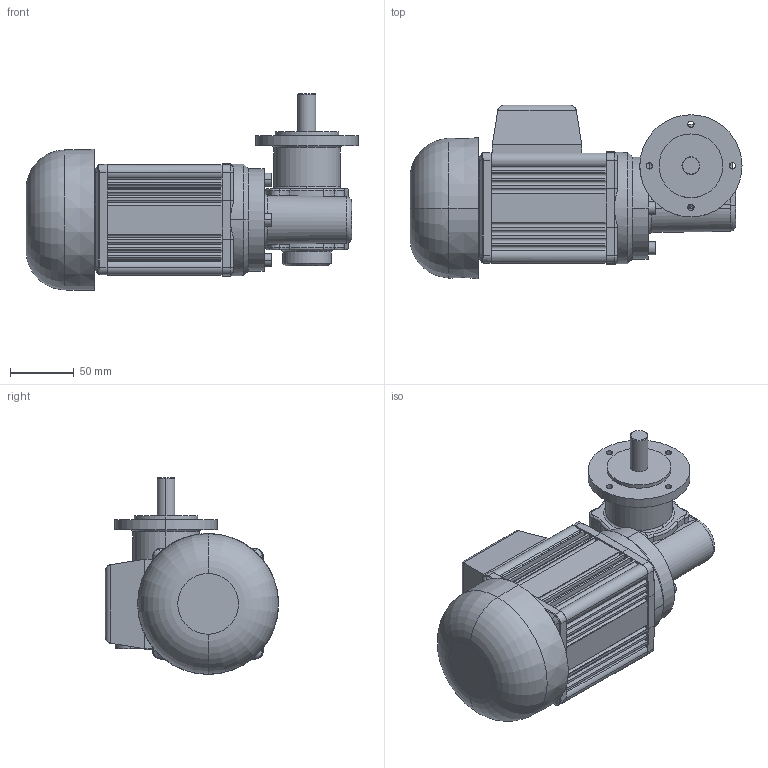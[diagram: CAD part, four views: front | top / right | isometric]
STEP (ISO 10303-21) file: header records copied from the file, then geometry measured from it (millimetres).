
FILE_DESCRIPTION(('OneSpaceDesigner STEP Export'),'2;1');
FILE_NAME('OEG51_GF133_F.stp','2008-06-18T15:35:38',(''),(''),'OneSpace Designer STEP processor (Jan. 2003) for AP214(CD)(Solid Model)','OneSpace Designer 12.01D 09-Jul-2004 (C) CoCreate Software GmbH','');
FILE_SCHEMA(('AUTOMOTIVE_DESIGN_CC2 {1 2 10303 214 -1 1 5 1}'));
Length unit declared in the file: millimetre
Products named in the file (2): OEG51_GF133_F
Assembly tree (1 placements, depth 2):
  OEG51_GF133_F
    OEG51_GF133_F
Bounding box: 260 x 135.73 x 154.25 mm (x, y, z)
Volume: 1855070 mm3; surface area: 149049.2 mm2
Topology: 1 solids, 1 shells, 426 faces, 1125 edges, 699 vertices
Faces by surface type: plane 197, cylinder 113, bspline 63, extrusion 25, cone 20, torus 8
Entity records: 24185 total; most frequent: CARTESIAN_POINT 15050, ORIENTED_EDGE 2250, DIRECTION 1430, EDGE_CURVE 1125, VERTEX_POINT 699, VECTOR 578, LINE 560, EDGE_LOOP 444
